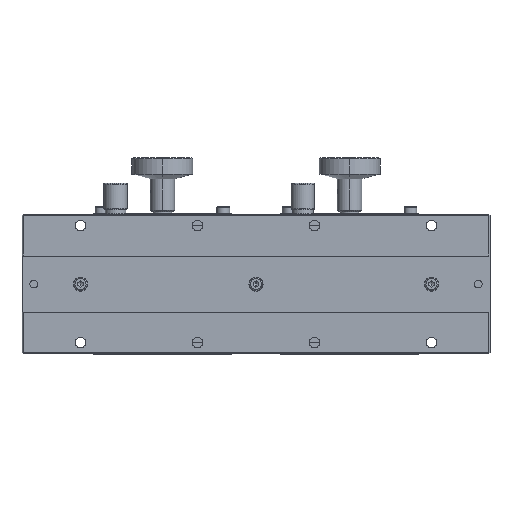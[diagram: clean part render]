
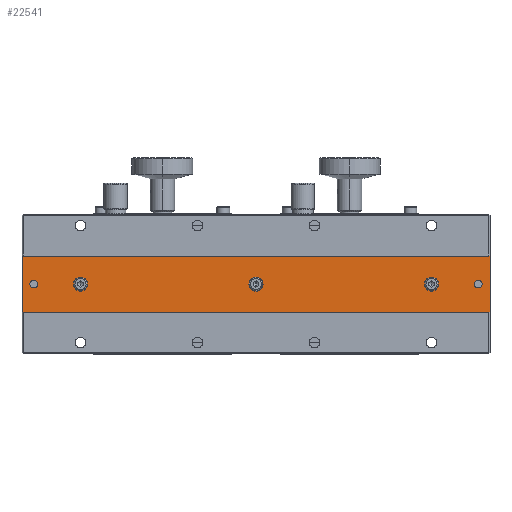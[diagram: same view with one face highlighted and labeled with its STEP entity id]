
A CAD part, front view. The second image highlights one B-rep face of the part: STEP entity #22541.
In plain terms, the highlighted planar face has unit normal (0, -1, 0).
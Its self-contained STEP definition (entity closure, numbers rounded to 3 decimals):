
#61 = AXIS2_PLACEMENT_3D ( 'NONE', #12183, #1723, #20584 ) ;
#110 = EDGE_CURVE ( 'NONE', #23470, #10458, #3332, .T. ) ;
#489 = FACE_OUTER_BOUND ( 'NONE', #7836, .T. ) ;
#539 = VERTEX_POINT ( 'NONE', #22527 ) ;
#684 = DIRECTION ( 'NONE',  ( 0., 0., -1. ) ) ;
#712 = DIRECTION ( 'NONE',  ( 0., 1., 0. ) ) ;
#994 = CIRCLE ( 'NONE', #20012, 3. ) ;
#1008 = DIRECTION ( 'NONE',  ( 0., 1., 0. ) ) ;
#1226 = EDGE_CURVE ( 'NONE', #10458, #23470, #4238, .T. ) ;
#1723 = DIRECTION ( 'NONE',  ( 0., 1., 0. ) ) ;
#2045 = CARTESIAN_POINT ( 'NONE',  ( 75., 0.5, 3. ) ) ;
#2636 = DIRECTION ( 'NONE',  ( 0., 1., 0. ) ) ;
#2665 = DIRECTION ( 'NONE',  ( 0., 0., -1. ) ) ;
#2861 = EDGE_CURVE ( 'NONE', #24234, #6076, #6847, .T. ) ;
#2886 = ORIENTED_EDGE ( 'NONE', *, *, #11684, .T. ) ;
#2951 = LINE ( 'NONE', #13489, #24330 ) ;
#3088 = CARTESIAN_POINT ( 'NONE',  ( -75., 0.5, 3. ) ) ;
#3204 = DIRECTION ( 'NONE',  ( 0., 0., -1. ) ) ;
#3321 = AXIS2_PLACEMENT_3D ( 'NONE', #13924, #13829, #9580 ) ;
#3325 = AXIS2_PLACEMENT_3D ( 'NONE', #3656, #14095, #5733 ) ;
#3332 = CIRCLE ( 'NONE', #3325, 3. ) ;
#3656 = CARTESIAN_POINT ( 'NONE',  ( 0., 0.5, 0. ) ) ;
#3815 = CARTESIAN_POINT ( 'NONE',  ( 100., 0.5, -12. ) ) ;
#3817 = VERTEX_POINT ( 'NONE', #3088 ) ;
#4238 = CIRCLE ( 'NONE', #4371, 3. ) ;
#4371 = AXIS2_PLACEMENT_3D ( 'NONE', #23558, #25630, #8894 ) ;
#4604 = LINE ( 'NONE', #14070, #15111 ) ;
#4606 = EDGE_CURVE ( 'NONE', #20493, #13527, #12321, .T. ) ;
#4702 = DIRECTION ( 'NONE',  ( 0., 0., -1. ) ) ;
#4705 = AXIS2_PLACEMENT_3D ( 'NONE', #21780, #23423, #6678 ) ;
#4947 = PLANE ( 'NONE',  #4705 ) ;
#5150 = DIRECTION ( 'NONE',  ( -1., 0., 0. ) ) ;
#5669 = CARTESIAN_POINT ( 'NONE',  ( -100., 0.5, 12. ) ) ;
#5733 = DIRECTION ( 'NONE',  ( 0., 0., -1. ) ) ;
#6076 = VERTEX_POINT ( 'NONE', #23532 ) ;
#6437 = ORIENTED_EDGE ( 'NONE', *, *, #110, .T. ) ;
#6678 = DIRECTION ( 'NONE',  ( 0., 0., -1. ) ) ;
#6847 = CIRCLE ( 'NONE', #3321, 1.65 ) ;
#7037 = EDGE_CURVE ( 'NONE', #3817, #21886, #20083, .T. ) ;
#7725 = ORIENTED_EDGE ( 'NONE', *, *, #13392, .T. ) ;
#7726 = CARTESIAN_POINT ( 'NONE',  ( 75., 0.5, 0. ) ) ;
#7744 = FACE_BOUND ( 'NONE', #20215, .T. ) ;
#7836 = EDGE_LOOP ( 'NONE', ( #2886, #17871, #26682, #11650 ) ) ;
#8055 = FACE_BOUND ( 'NONE', #18196, .T. ) ;
#8246 = CARTESIAN_POINT ( 'NONE',  ( -100., 0.5, -12. ) ) ;
#8894 = DIRECTION ( 'NONE',  ( 0., 0., -1. ) ) ;
#8936 = ORIENTED_EDGE ( 'NONE', *, *, #23980, .T. ) ;
#9269 = EDGE_CURVE ( 'NONE', #21886, #3817, #14424, .T. ) ;
#9580 = DIRECTION ( 'NONE',  ( 0., 0., -1. ) ) ;
#10099 = CARTESIAN_POINT ( 'NONE',  ( -95., 0.5, -1.65 ) ) ;
#10458 = VERTEX_POINT ( 'NONE', #24081 ) ;
#10992 = CARTESIAN_POINT ( 'NONE',  ( -75., 0.5, 0. ) ) ;
#11173 = VECTOR ( 'NONE', #22997, 1000. ) ;
#11343 = CARTESIAN_POINT ( 'NONE',  ( 95., 0.5, 0. ) ) ;
#11440 = DIRECTION ( 'NONE',  ( 0., 0., -1. ) ) ;
#11650 = ORIENTED_EDGE ( 'NONE', *, *, #26082, .T. ) ;
#11684 = EDGE_CURVE ( 'NONE', #16831, #20561, #12918, .T. ) ;
#11773 = EDGE_CURVE ( 'NONE', #13527, #20493, #25736, .T. ) ;
#11894 = ORIENTED_EDGE ( 'NONE', *, *, #11773, .T. ) ;
#12046 = DIRECTION ( 'NONE',  ( 0., 0., 1. ) ) ;
#12183 = CARTESIAN_POINT ( 'NONE',  ( -95., 0.5, 0. ) ) ;
#12276 = VECTOR ( 'NONE', #3204, 1000. ) ;
#12321 = CIRCLE ( 'NONE', #18788, 1.65 ) ;
#12334 = FACE_BOUND ( 'NONE', #22081, .T. ) ;
#12775 = AXIS2_PLACEMENT_3D ( 'NONE', #11343, #712, #11440 ) ;
#12918 = LINE ( 'NONE', #5669, #12276 ) ;
#12994 = CARTESIAN_POINT ( 'NONE',  ( -75., 0.5, -3. ) ) ;
#13112 = DIRECTION ( 'NONE',  ( 0., 1., 0. ) ) ;
#13386 = EDGE_LOOP ( 'NONE', ( #15055, #18045 ) ) ;
#13392 = EDGE_CURVE ( 'NONE', #539, #22149, #994, .T. ) ;
#13489 = CARTESIAN_POINT ( 'NONE',  ( -100., 0.5, 12. ) ) ;
#13527 = VERTEX_POINT ( 'NONE', #18342 ) ;
#13539 = CIRCLE ( 'NONE', #21677, 3. ) ;
#13672 = EDGE_CURVE ( 'NONE', #20561, #17310, #16171, .T. ) ;
#13829 = DIRECTION ( 'NONE',  ( 0., 1., 0. ) ) ;
#13924 = CARTESIAN_POINT ( 'NONE',  ( 95., 0.5, 0. ) ) ;
#14070 = CARTESIAN_POINT ( 'NONE',  ( 100., 0.5, 12. ) ) ;
#14095 = DIRECTION ( 'NONE',  ( 0., 1., 0. ) ) ;
#14424 = CIRCLE ( 'NONE', #22773, 3. ) ;
#14446 = EDGE_CURVE ( 'NONE', #6076, #24234, #24977, .T. ) ;
#15014 = ORIENTED_EDGE ( 'NONE', *, *, #4606, .T. ) ;
#15055 = ORIENTED_EDGE ( 'NONE', *, *, #9269, .T. ) ;
#15111 = VECTOR ( 'NONE', #12046, 1000. ) ;
#15124 = VERTEX_POINT ( 'NONE', #15490 ) ;
#15177 = CARTESIAN_POINT ( 'NONE',  ( -95., 0.5, 0. ) ) ;
#15490 = CARTESIAN_POINT ( 'NONE',  ( 100., 0.5, 12. ) ) ;
#15548 = CARTESIAN_POINT ( 'NONE',  ( 75., 0.5, 0. ) ) ;
#16171 = LINE ( 'NONE', #8246, #11173 ) ;
#16660 = FACE_BOUND ( 'NONE', #21529, .T. ) ;
#16831 = VERTEX_POINT ( 'NONE', #18611 ) ;
#16948 = CARTESIAN_POINT ( 'NONE',  ( -100., 0.5, -12. ) ) ;
#17099 = ORIENTED_EDGE ( 'NONE', *, *, #14446, .T. ) ;
#17283 = EDGE_CURVE ( 'NONE', #17310, #15124, #4604, .T. ) ;
#17284 = CARTESIAN_POINT ( 'NONE',  ( -75., 0.5, 0. ) ) ;
#17310 = VERTEX_POINT ( 'NONE', #3815 ) ;
#17871 = ORIENTED_EDGE ( 'NONE', *, *, #13672, .T. ) ;
#18045 = ORIENTED_EDGE ( 'NONE', *, *, #7037, .T. ) ;
#18196 = EDGE_LOOP ( 'NONE', ( #6437, #22281 ) ) ;
#18342 = CARTESIAN_POINT ( 'NONE',  ( -95., 0.5, 1.65 ) ) ;
#18611 = CARTESIAN_POINT ( 'NONE',  ( -100., 0.5, 12. ) ) ;
#18643 = FACE_BOUND ( 'NONE', #13386, .T. ) ;
#18788 = AXIS2_PLACEMENT_3D ( 'NONE', #15177, #19696, #4702 ) ;
#18965 = AXIS2_PLACEMENT_3D ( 'NONE', #10992, #13112, #2665 ) ;
#19062 = ORIENTED_EDGE ( 'NONE', *, *, #2861, .T. ) ;
#19696 = DIRECTION ( 'NONE',  ( 0., 1., 0. ) ) ;
#20012 = AXIS2_PLACEMENT_3D ( 'NONE', #15548, #1008, #23990 ) ;
#20083 = CIRCLE ( 'NONE', #18965, 3. ) ;
#20215 = EDGE_LOOP ( 'NONE', ( #7725, #8936 ) ) ;
#20493 = VERTEX_POINT ( 'NONE', #10099 ) ;
#20561 = VERTEX_POINT ( 'NONE', #16948 ) ;
#20584 = DIRECTION ( 'NONE',  ( 0., 0., -1. ) ) ;
#21407 = CARTESIAN_POINT ( 'NONE',  ( 0., 0.5, -3. ) ) ;
#21529 = EDGE_LOOP ( 'NONE', ( #17099, #19062 ) ) ;
#21677 = AXIS2_PLACEMENT_3D ( 'NONE', #7726, #24749, #26475 ) ;
#21780 = CARTESIAN_POINT ( 'NONE',  ( 0., 0.5, 0. ) ) ;
#21886 = VERTEX_POINT ( 'NONE', #12994 ) ;
#22081 = EDGE_LOOP ( 'NONE', ( #11894, #15014 ) ) ;
#22149 = VERTEX_POINT ( 'NONE', #2045 ) ;
#22281 = ORIENTED_EDGE ( 'NONE', *, *, #1226, .T. ) ;
#22527 = CARTESIAN_POINT ( 'NONE',  ( 75., 0.5, -3. ) ) ;
#22541 = ADVANCED_FACE ( 'NONE', ( #489, #7744, #8055, #18643, #16660, #12334 ), #4947, .T. ) ;
#22773 = AXIS2_PLACEMENT_3D ( 'NONE', #17284, #2636, #684 ) ;
#22997 = DIRECTION ( 'NONE',  ( 1., 0., 0. ) ) ;
#23423 = DIRECTION ( 'NONE',  ( 0., -1., 0. ) ) ;
#23470 = VERTEX_POINT ( 'NONE', #21407 ) ;
#23532 = CARTESIAN_POINT ( 'NONE',  ( 95., 0.5, 1.65 ) ) ;
#23558 = CARTESIAN_POINT ( 'NONE',  ( 0., 0.5, 0. ) ) ;
#23980 = EDGE_CURVE ( 'NONE', #22149, #539, #13539, .T. ) ;
#23990 = DIRECTION ( 'NONE',  ( 0., 0., -1. ) ) ;
#24081 = CARTESIAN_POINT ( 'NONE',  ( 0., 0.5, 3. ) ) ;
#24234 = VERTEX_POINT ( 'NONE', #24389 ) ;
#24330 = VECTOR ( 'NONE', #5150, 1000. ) ;
#24389 = CARTESIAN_POINT ( 'NONE',  ( 95., 0.5, -1.65 ) ) ;
#24749 = DIRECTION ( 'NONE',  ( 0., 1., 0. ) ) ;
#24977 = CIRCLE ( 'NONE', #12775, 1.65 ) ;
#25630 = DIRECTION ( 'NONE',  ( 0., 1., 0. ) ) ;
#25736 = CIRCLE ( 'NONE', #61, 1.65 ) ;
#26082 = EDGE_CURVE ( 'NONE', #15124, #16831, #2951, .T. ) ;
#26475 = DIRECTION ( 'NONE',  ( 0., 0., -1. ) ) ;
#26682 = ORIENTED_EDGE ( 'NONE', *, *, #17283, .T. ) ;
